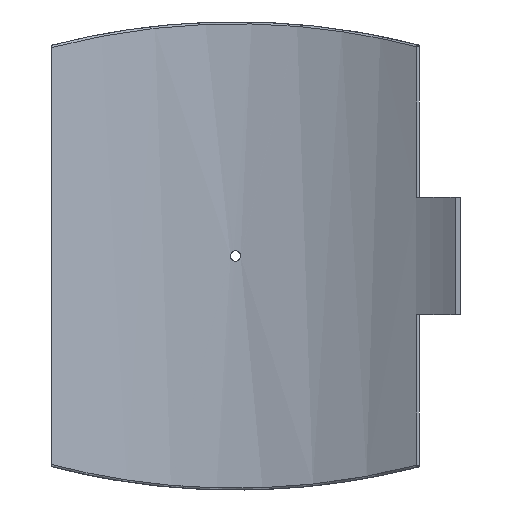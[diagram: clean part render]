
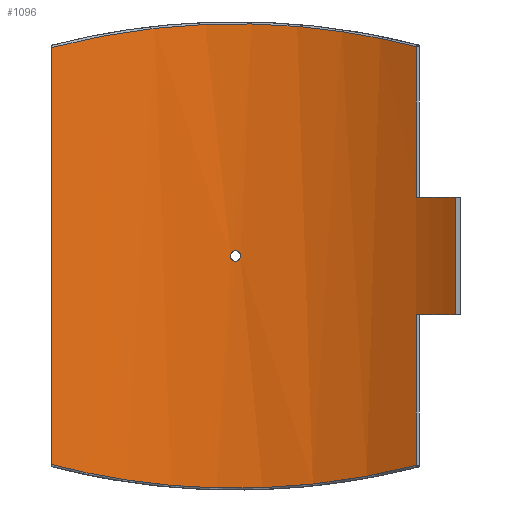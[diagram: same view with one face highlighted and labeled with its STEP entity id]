
A CAD part, front view. The second image highlights one B-rep face of the part: STEP entity #1096.
In plain terms, the highlighted cylindrical face has radius 355 mm (diameter 710 mm), a partial arc.
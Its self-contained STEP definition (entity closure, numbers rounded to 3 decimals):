
#55=FACE_BOUND('',#359,.T.);
#109=B_SPLINE_CURVE_WITH_KNOTS('',3,(#2242,#2243,#2244,#2245,#2246,#2247,
#2248,#2249,#2250,#2251),.UNSPECIFIED.,.F.,.F.,(4,1,1,1,1,1,1,4),(-44.2,
-38.624,-33.049,-27.473,-21.898,
-16.322,-10.747,-5.171),.UNSPECIFIED.);
#110=B_SPLINE_CURVE_WITH_KNOTS('',3,(#2260,#2261,#2262,#2263,#2264,#2265,
#2266,#2267,#2268,#2269),.UNSPECIFIED.,.F.,.F.,(4,1,1,1,1,1,1,4),(-40.756,
-35.18,-29.605,-24.029,-18.454,
-12.878,-7.303,-1.727),.UNSPECIFIED.);
#111=B_SPLINE_CURVE_WITH_KNOTS('',3,(#2272,#2273,#2274,#2275,#2276,#2277,
#2278,#2279,#2280,#2281),.UNSPECIFIED.,.F.,.F.,(4,2,2,2,4),(0.,0.196,
0.392,0.588,0.784),.UNSPECIFIED.);
#112=B_SPLINE_CURVE_WITH_KNOTS('',3,(#2282,#2283,#2284,#2285,#2286,#2287,
#2288,#2289,#2290,#2291,#2292,#2293,#2294,#2295,#2296,#2297,#2298,#2299,
#2300,#2301,#2302,#2303,#2304,#2305,#2306,#2307),.UNSPECIFIED.,.F.,.F.,
(4,2,2,2,2,2,2,2,2,2,2,2,4),(0.784,0.979,1.175,
1.371,1.567,1.763,1.959,2.155,
2.351,2.546,2.742,2.938,3.134),
 .UNSPECIFIED.);
#133=LINE('',#1644,#185);
#144=LINE('',#1931,#196);
#151=LINE('',#2256,#203);
#152=LINE('',#2259,#204);
#185=VECTOR('',#1314,10.);
#196=VECTOR('',#1353,10.);
#203=VECTOR('',#1390,10.);
#204=VECTOR('',#1393,10.);
#246=CYLINDRICAL_SURFACE('',#1194,355.);
#291=FACE_OUTER_BOUND('',#358,.T.);
#358=EDGE_LOOP('',(#851,#852,#853,#854,#855,#856,#857,#858));
#359=EDGE_LOOP('',(#859,#860));
#454=CIRCLE('',#1195,355.);
#455=CIRCLE('',#1196,355.);
#517=VERTEX_POINT('',#1635);
#520=VERTEX_POINT('',#1642);
#540=VERTEX_POINT('',#1924);
#543=VERTEX_POINT('',#1929);
#556=VERTEX_POINT('',#2228);
#557=VERTEX_POINT('',#2253);
#558=VERTEX_POINT('',#2255);
#559=VERTEX_POINT('',#2258);
#560=VERTEX_POINT('',#2270);
#561=VERTEX_POINT('',#2271);
#622=EDGE_CURVE('',#520,#517,#133,.T.);
#652=EDGE_CURVE('',#543,#540,#144,.T.);
#675=EDGE_CURVE('',#556,#543,#109,.T.);
#676=EDGE_CURVE('',#557,#520,#454,.T.);
#677=EDGE_CURVE('',#557,#558,#151,.T.);
#678=EDGE_CURVE('',#540,#558,#455,.T.);
#679=EDGE_CURVE('',#559,#556,#152,.T.);
#680=EDGE_CURVE('',#517,#559,#110,.T.);
#681=EDGE_CURVE('',#560,#561,#111,.T.);
#682=EDGE_CURVE('',#561,#560,#112,.T.);
#851=ORIENTED_EDGE('',*,*,#676,.F.);
#852=ORIENTED_EDGE('',*,*,#677,.T.);
#853=ORIENTED_EDGE('',*,*,#678,.F.);
#854=ORIENTED_EDGE('',*,*,#652,.F.);
#855=ORIENTED_EDGE('',*,*,#675,.F.);
#856=ORIENTED_EDGE('',*,*,#679,.F.);
#857=ORIENTED_EDGE('',*,*,#680,.F.);
#858=ORIENTED_EDGE('',*,*,#622,.F.);
#859=ORIENTED_EDGE('',*,*,#681,.T.);
#860=ORIENTED_EDGE('',*,*,#682,.T.);
#1096=ADVANCED_FACE('',(#291,#55),#246,.F.);
#1194=AXIS2_PLACEMENT_3D('',#2252,#1386,#1387);
#1195=AXIS2_PLACEMENT_3D('',#2254,#1388,#1389);
#1196=AXIS2_PLACEMENT_3D('',#2257,#1391,#1392);
#1314=DIRECTION('',(0.,0.,-1.));
#1353=DIRECTION('',(0.,0.,-1.));
#1386=DIRECTION('center_axis',(0.,0.,1.));
#1387=DIRECTION('ref_axis',(-1.,0.,0.));
#1388=DIRECTION('center_axis',(0.,0.,1.));
#1389=DIRECTION('ref_axis',(-0.621,-0.784,0.));
#1390=DIRECTION('',(0.,0.,1.));
#1391=DIRECTION('center_axis',(0.,0.,-1.));
#1392=DIRECTION('ref_axis',(-0.621,-0.784,0.));
#1393=DIRECTION('',(0.,0.,1.));
#1635=CARTESIAN_POINT('',(181.478,305.108,-209.95));
#1642=CARTESIAN_POINT('',(181.478,305.108,-58.75));
#1644=CARTESIAN_POINT('',(181.478,305.108,0.));
#1924=CARTESIAN_POINT('',(181.478,305.108,58.75));
#1929=CARTESIAN_POINT('',(181.478,305.108,209.95));
#1931=CARTESIAN_POINT('',(181.478,305.108,0.));
#2228=CARTESIAN_POINT('',(-184.5,303.29,209.163));
#2242=CARTESIAN_POINT('Ctrl Pts',(-184.5,303.29,209.163));
#2243=CARTESIAN_POINT('Ctrl Pts',(-169.091,312.663,213.211));
#2244=CARTESIAN_POINT('Ctrl Pts',(-136.705,329.142,220.631));
#2245=CARTESIAN_POINT('Ctrl Pts',(-84.404,346.293,228.754));
#2246=CARTESIAN_POINT('Ctrl Pts',(-29.635,355.213,233.102));
#2247=CARTESIAN_POINT('Ctrl Pts',(26.014,355.498,233.244));
#2248=CARTESIAN_POINT('Ctrl Pts',(80.89,347.131,229.158));
#2249=CARTESIAN_POINT('Ctrl Pts',(133.395,330.501,221.263));
#2250=CARTESIAN_POINT('Ctrl Pts',(165.966,314.334,213.954));
#2251=CARTESIAN_POINT('Ctrl Pts',(181.478,305.108,209.95));
#2252=CARTESIAN_POINT('Origin',(0.,0.,0.));
#2253=CARTESIAN_POINT('',(220.342,278.342,-58.75));
#2254=CARTESIAN_POINT('Origin',(0.,0.,
-58.75));
#2255=CARTESIAN_POINT('',(220.342,278.342,58.75));
#2256=CARTESIAN_POINT('',(220.342,278.342,0.));
#2257=CARTESIAN_POINT('Origin',(0.,0.,
58.75));
#2258=CARTESIAN_POINT('',(-184.5,303.29,-209.163));
#2259=CARTESIAN_POINT('',(-184.5,303.29,0.));
#2260=CARTESIAN_POINT('Ctrl Pts',(181.478,305.108,-209.95));
#2261=CARTESIAN_POINT('Ctrl Pts',(165.966,314.334,-213.954));
#2262=CARTESIAN_POINT('Ctrl Pts',(133.394,330.5,-221.262));
#2263=CARTESIAN_POINT('Ctrl Pts',(80.891,347.132,-229.159));
#2264=CARTESIAN_POINT('Ctrl Pts',(26.014,355.497,-233.242));
#2265=CARTESIAN_POINT('Ctrl Pts',(-29.635,355.214,-233.104));
#2266=CARTESIAN_POINT('Ctrl Pts',(-84.404,346.293,-228.753));
#2267=CARTESIAN_POINT('Ctrl Pts',(-136.705,329.143,-220.632));
#2268=CARTESIAN_POINT('Ctrl Pts',(-169.091,312.663,-213.211));
#2269=CARTESIAN_POINT('Ctrl Pts',(-184.5,303.29,-209.163));
#2270=CARTESIAN_POINT('',(5.2,354.962,0.));
#2271=CARTESIAN_POINT('',(0.,355.,-5.2));
#2272=CARTESIAN_POINT('Ctrl Pts',(5.2,354.962,0.));
#2273=CARTESIAN_POINT('Ctrl Pts',(5.2,354.962,-0.653));
#2274=CARTESIAN_POINT('Ctrl Pts',(5.07,354.964,-1.349));
#2275=CARTESIAN_POINT('Ctrl Pts',(4.539,354.971,-2.631));
#2276=CARTESIAN_POINT('Ctrl Pts',(4.139,354.976,-3.215));
#2277=CARTESIAN_POINT('Ctrl Pts',(3.215,354.986,-4.139));
#2278=CARTESIAN_POINT('Ctrl Pts',(2.631,354.991,-4.539));
#2279=CARTESIAN_POINT('Ctrl Pts',(1.349,354.998,-5.07));
#2280=CARTESIAN_POINT('Ctrl Pts',(0.653,355.,-5.2));
#2281=CARTESIAN_POINT('Ctrl Pts',(0.,355.,-5.2));
#2282=CARTESIAN_POINT('Ctrl Pts',(0.,355.,-5.2));
#2283=CARTESIAN_POINT('Ctrl Pts',(-0.653,355.,-5.2));
#2284=CARTESIAN_POINT('Ctrl Pts',(-1.349,354.998,-5.07));
#2285=CARTESIAN_POINT('Ctrl Pts',(-2.631,354.991,-4.539));
#2286=CARTESIAN_POINT('Ctrl Pts',(-3.215,354.986,-4.139));
#2287=CARTESIAN_POINT('Ctrl Pts',(-4.139,354.976,-3.215));
#2288=CARTESIAN_POINT('Ctrl Pts',(-4.539,354.971,-2.631));
#2289=CARTESIAN_POINT('Ctrl Pts',(-5.07,354.964,-1.349));
#2290=CARTESIAN_POINT('Ctrl Pts',(-5.2,354.962,-0.653));
#2291=CARTESIAN_POINT('Ctrl Pts',(-5.2,354.962,0.653));
#2292=CARTESIAN_POINT('Ctrl Pts',(-5.07,354.964,1.349));
#2293=CARTESIAN_POINT('Ctrl Pts',(-4.539,354.971,2.631));
#2294=CARTESIAN_POINT('Ctrl Pts',(-4.139,354.976,3.215));
#2295=CARTESIAN_POINT('Ctrl Pts',(-3.215,354.986,4.139));
#2296=CARTESIAN_POINT('Ctrl Pts',(-2.631,354.991,4.539));
#2297=CARTESIAN_POINT('Ctrl Pts',(-1.349,354.998,5.07));
#2298=CARTESIAN_POINT('Ctrl Pts',(-0.653,355.,5.2));
#2299=CARTESIAN_POINT('Ctrl Pts',(0.653,355.,5.2));
#2300=CARTESIAN_POINT('Ctrl Pts',(1.349,354.998,5.07));
#2301=CARTESIAN_POINT('Ctrl Pts',(2.631,354.991,4.539));
#2302=CARTESIAN_POINT('Ctrl Pts',(3.215,354.986,4.139));
#2303=CARTESIAN_POINT('Ctrl Pts',(4.139,354.976,3.215));
#2304=CARTESIAN_POINT('Ctrl Pts',(4.539,354.971,2.631));
#2305=CARTESIAN_POINT('Ctrl Pts',(5.07,354.964,1.349));
#2306=CARTESIAN_POINT('Ctrl Pts',(5.2,354.962,0.653));
#2307=CARTESIAN_POINT('Ctrl Pts',(5.2,354.962,0.));
